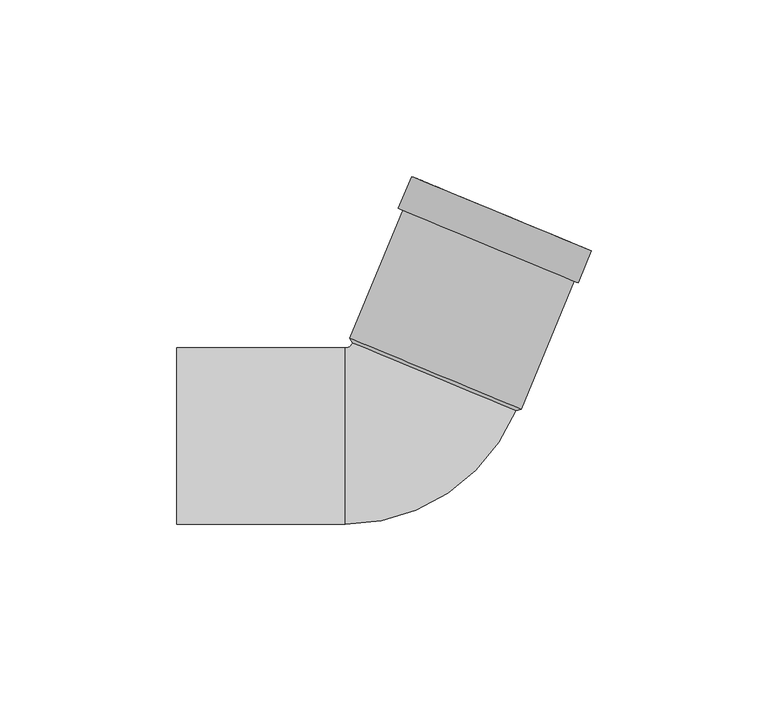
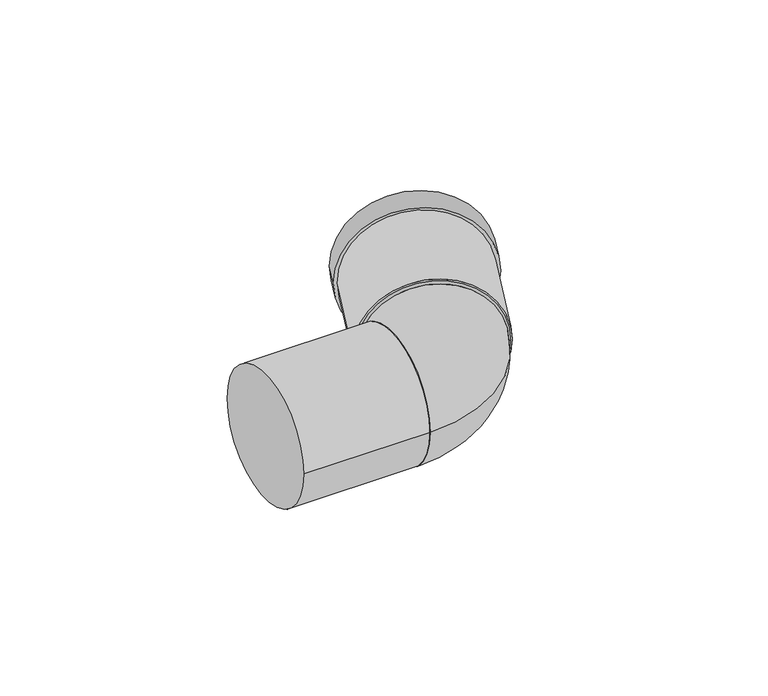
"""IFC4 building model written with IfcOpenShell, lengths in millimetres: pipe fitting geometry, Superdrain HT bend : Superdrain HT Bend."""

from ifc_helpers import new_model, si_unit, point, frame, origin, origin_2d, place, context, project, spatial, polyline, circle_curve, ellipse_curve, trimmed, segment, composite_curve, outline, extrude, source, transform, mapped, element, save
from ifc_brep_helpers import plane_surface, revolved_surface, advanced_brep


def pipe_fitting_beb0df4e(model_context):
    return source(origin(), model_context, "Body", "SolidModel", [
        advanced_brep(
        [(30.0618268, 7.2475217, 0.0), (-16.1321498, 26.3816933, 0.0), (-18.2, -25.0, 0.0), (-18.2, 25.0, 0.0)],
        [
            (0, 1, circle_curve(frame((6.9648385, 16.8146075, 0.0), z_axis=(0.38268343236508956, 0.9238795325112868, 0.0), x_axis=(-0.9238795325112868, 0.38268343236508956, 0.0)), 25.0)),
            (1, 0, circle_curve(frame((6.9648385, 16.8146075, 0.0), z_axis=(0.3826834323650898, 0.9238795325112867, 0.0), x_axis=(-0.9238795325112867, 0.3826834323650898, 0.0)), 25.0)),
            (2, 3, circle_curve(frame((-18.2, 0.0, 0.0), z_axis=(-1.0, 0.0, 0.0), x_axis=(0.0, 1.0, 0.0)), 25.0)),
            (3, 2, circle_curve(frame((-18.2, 0.0, 0.0), z_axis=(-1.0, 0.0, 0.0), x_axis=(0.0, 1.0, 0.0)), 25.0)),
            (3, 1, circle_curve(frame((-18.2, 27.2382249, 0.0), z_axis=(0.0, 0.0, 1.0), x_axis=(1.0, 0.0, 0.0)), 2.2382249)),
            (0, 2, circle_curve(frame((-18.2, 27.2382249, 0.0), z_axis=(0.0, 0.0, -1.0), x_axis=(1.0, 0.0, 0.0)), 52.2382249)),
        ],
        [
            plane_surface(frame((6.9648385, 16.8146075, 0.0), z_axis=(0.38268343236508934, 0.923879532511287, 0.0), x_axis=(0.0, 0.0, -1.0))),
            plane_surface(frame((-18.2, 0.0, 0.0), z_axis=(-1.0, 0.0, 0.0), x_axis=(0.0, 0.0, -1.0))),
            revolved_surface(trimmed(ellipse_curve(frame((9.0382249, 27.2382249, 0.0), z_axis=(0.0, -1.0, 0.0), x_axis=(-1.0, 0.0, 0.0)), 25.0, 25.0), [point((-15.9617751, 27.2382249, 0.0))], [point((34.0382249, 27.2382249, 0.0))], True, "CARTESIAN"), (-18.2, 27.2382249, 0.0), (0.0, 0.0, 1.0)),
            revolved_surface(trimmed(ellipse_curve(frame((9.0382249, 27.2382249, 0.0), z_axis=(0.0, -1.0, 0.0), x_axis=(-1.0, 0.0, 0.0)), 25.0, 25.0), [point((34.0382249, 27.2382249, 0.0))], [point((-15.9617751, 27.2382249, 0.0))], True, "CARTESIAN"), (-18.2, 27.2382249, 0.0), (0.0, 0.0, 1.0)),
        ],
        [
            (0, [[1, 2]]),
            (1, [[3, 4]]),
            (2, [[-4, 5, -1, 6]]),
            (3, [[-3, -6, -2, -5]]),
        ],
    ),
        extrude(outline(composite_curve([segment(trimmed(circle_curve(origin_2d(), 26.25), [point((0.0, 26.25))], [point((0.0, -26.25))], False, "CARTESIAN"), True, "CONTINUOUS"), segment(trimmed(circle_curve(origin_2d(), 26.25), [point((0.0, -26.25))], [point((0.0, 26.25))], False, "CARTESIAN"), True, "CONTINUOUS")], self_intersect=False), holes=[composite_curve([segment(trimmed(circle_curve(origin_2d(), 25.0), [point((0.0, 25.0))], [point((0.0, -25.0))], True, "CARTESIAN"), True, "CONTINUOUS"), segment(trimmed(circle_curve(origin_2d(), 25.0), [point((0.0, -25.0))], [point((0.0, 25.0))], True, "CARTESIAN"), True, "CONTINUOUS")], self_intersect=False)]), frame((7.3475219, 17.738487, 0.0), z_axis=(0.38268343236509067, 0.9238795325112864, 0.0), x_axis=(0.0, 0.0, 1.0)), (0.0, 0.0, 1.0), 49.0),
        extrude(outline(composite_curve([segment(trimmed(circle_curve(origin_2d(), 27.5625), [point((0.0, -27.5625001))], [point((0.0, 27.5625))], False, "CARTESIAN"), True, "CONTINUOUS"), segment(trimmed(circle_curve(origin_2d(), 27.5625), [point((0.0, 27.5625))], [point((0.0, -27.5625001))], False, "CARTESIAN"), True, "CONTINUOUS")], self_intersect=False), holes=[composite_curve([segment(trimmed(circle_curve(origin_2d(), 25.0), [point((0.0, -25.0000001))], [point((0.0, 25.0))], True, "CARTESIAN"), True, "CONTINUOUS"), segment(trimmed(circle_curve(origin_2d(), 25.0), [point((0.0, 25.0))], [point((0.0, -25.0000001))], True, "CARTESIAN"), True, "CONTINUOUS")], self_intersect=False)]), frame((22.3487125, 53.9545647, 0.0), z_axis=(0.38268343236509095, 0.9238795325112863, 0.0), x_axis=(0.0, 0.0, 1.0)), (0.0, 0.0, 1.0), 9.8),
        advanced_brep(
        [(31.5993596, 7.6930469, 0.0), (-16.9043158, 27.7839271, 0.0), (30.0618268, 7.2475217, 0.0), (-16.1321498, 26.3816933, 0.0)],
        [
            (0, 1, circle_curve(frame((7.3475219, 17.738487, 0.0), z_axis=(0.3826834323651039, 0.923879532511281, 0.0), x_axis=(0.9238795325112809, -0.38268343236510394, 0.0)), 26.25)),
            (1, 0, circle_curve(frame((7.3475219, 17.738487, 0.0), z_axis=(0.3826834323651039, 0.923879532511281, 0.0), x_axis=(-0.9238795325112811, 0.38268343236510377, 0.0)), 26.25)),
            (2, 3, circle_curve(frame((6.9648385, 16.8146075, 0.0), z_axis=(-0.3826834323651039, -0.923879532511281, 0.0), x_axis=(-0.9238795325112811, 0.38268343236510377, 0.0)), 25.0)),
            (3, 2, circle_curve(frame((6.9648385, 16.8146075, 0.0), z_axis=(-0.3826834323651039, -0.923879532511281, 0.0), x_axis=(0.9238795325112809, -0.38268343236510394, 0.0)), 25.0)),
            (3, 1),
            (0, 2),
        ],
        [
            plane_surface(frame((7.3475219, 17.738487, 0.0), z_axis=(0.3826834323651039, 0.923879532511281, 0.0), x_axis=(0.0, 0.0, -1.0))),
            plane_surface(frame((6.9648385, 16.8146075, 0.0), z_axis=(-0.3826834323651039, -0.923879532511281, 0.0), x_axis=(0.0, 0.0, -1.0))),
            revolved_surface(polyline([(-16.132149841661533, 26.38169331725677, 0.0), (-16.9043158, 27.7839271, 0.0)]), (-0.6888302, -1.6629832, 0.0), (0.3826834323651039, 0.923879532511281, 0.0)),
            revolved_surface(polyline([(30.06182683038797, 7.247521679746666, 0.0), (31.599359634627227, 7.693046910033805, 0.0)]), (-0.6888302, -1.6629832, 0.0), (0.3826834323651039, 0.923879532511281, 0.0)),
        ],
        [
            (0, [[1, 2]]),
            (1, [[3, 4]]),
            (2, [[-4, 5, -1, 6]]),
            (3, [[-3, -6, -2, -5]]),
        ],
    ),
        extrude(outline(composite_curve([segment(trimmed(circle_curve(origin_2d(), 25.0), [point((-25.0, 0.0))], [point((25.0, 0.0))], False, "CARTESIAN"), True, "CONTINUOUS"), segment(trimmed(circle_curve(origin_2d(), 25.0), [point((25.0, 0.0))], [point((-25.0, 0.0))], False, "CARTESIAN"), True, "CONTINUOUS")], self_intersect=False)), frame((-66.0, 0.0, 0.0), z_axis=(1.0, 0.0, 0.0), x_axis=(0.0, 1.0, 0.0)), (0.0, 0.0, 1.0), 47.8),
    ])


if __name__ == "__main__":
    model = new_model("IFC4")
    model_context = context("Model", 3, world=origin())
    ifc_project = project(units=[si_unit("LENGTHUNIT", "METRE", prefix="MILLI")], contexts=[model_context])
    site = spatial("IfcSite", under=ifc_project)
    building = spatial("IfcBuilding", under=site)
    placement = place(None, origin())
    pipe_fitting_shape = pipe_fitting_beb0df4e(model_context)
    element("IfcPipeFitting", 1, ObjectType="Superdrain HT bend : Superdrain HT Bend", at=placement, inside=building, context=model_context, shape_type="MappedRepresentation", body=[
        mapped(pipe_fitting_shape, transform((0.0, 0.0, 0.0), x_axis=(1.0, 0.0, 0.0), y_axis=(0.0, 1.0, 0.0), z_axis=(0.0, 0.0, 1.0))),
    ])
    save(model, "model.ifc")
